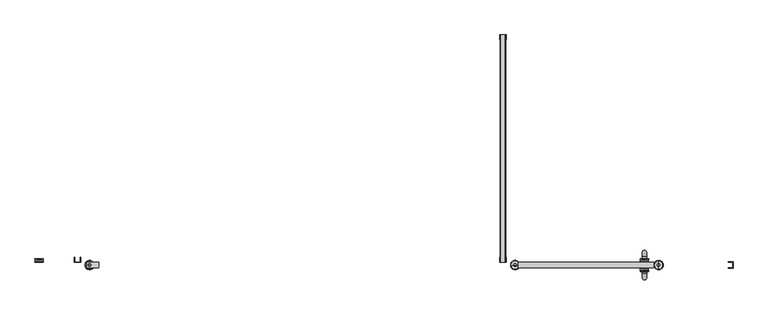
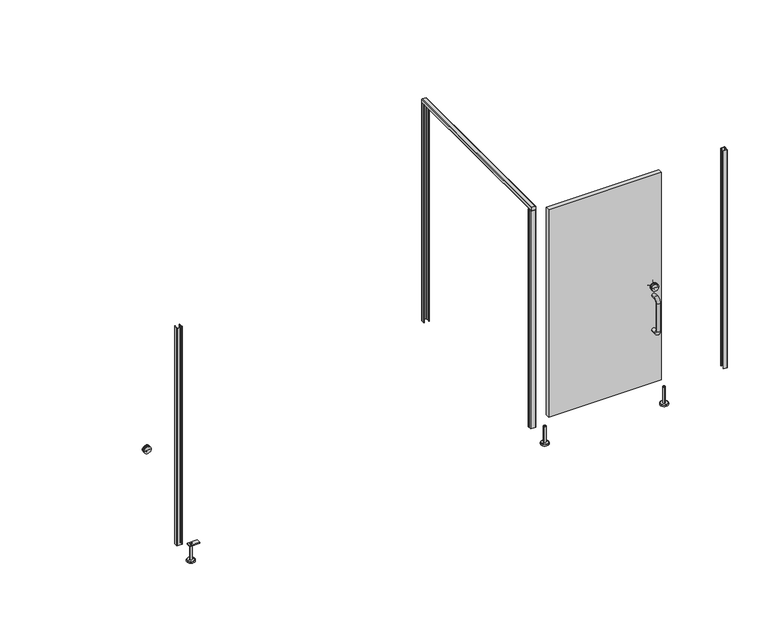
"""IFC4 building model written with IfcOpenShell, lengths in millimetres: proxy geometry, Partition_EuroStyle-Bradley_Corp-ADA-4StandardStall-NEP-LOFT : Partition_EuroStyle-Bradley_Corp-ADA-4StandardStall-NEP-LOFT."""

from ifc_helpers import new_model, si_unit, point, frame, frame_2d, origin, place, context, project, spatial, polyline, circle_curve, ellipse_curve, trimmed, segment, composite_curve, outline, extrude, source, transform, mapped, element, save
from ifc_brep_helpers import plane_surface, cylinder_surface, revolved_surface, advanced_brep


def specialty_equipment_23c630fa(model_context):
    return source(origin(), model_context, "Body", "SolidModel", [
        extrude(outline(composite_curve([segment(polyline([(2032.9666591, 3638.6203701), (2005.7492965, 3639.0741806)]), True, "CONTINUOUS"), segment(trimmed(circle_curve(frame_2d((2005.762, 3639.8360747)), 0.762), [point((2005.7492965, 3639.0741806))], [point((2005.0, 3639.8360747))], False, "CARTESIAN"), True, "CONTINUOUS"), segment(polyline([(2005.0, 3639.8360747), (2005.0, 3673.3733505)]), True, "CONTINUOUS"), segment(trimmed(circle_curve(frame_2d((2005.79375, 3673.3733505)), 0.79375), [point((2005.0, 3673.3733505))], [point((2005.7805172, 3674.1669902))], False, "CARTESIAN"), True, "CONTINUOUS"), segment(polyline([(2005.7805172, 3674.1669902), (2032.9666591, 3674.6202802)]), True, "CONTINUOUS"), segment(trimmed(circle_curve(frame_2d((2033.0000015, 3672.6205597)), 1.9999985), [point((2032.9666591, 3674.6202802))], [point((2035.0, 3672.6205597))], False, "CARTESIAN"), True, "CONTINUOUS"), segment(polyline([(2035.0, 3672.6205597), (2035.0, 3640.6200907)]), True, "CONTINUOUS"), segment(trimmed(circle_curve(frame_2d((2033.0000015, 3640.6200907)), 1.9999985), [point((2035.0, 3640.6200907))], [point((2032.9666591, 3638.6203701))], False, "CARTESIAN"), True, "CONTINUOUS")], self_intersect=False)), frame((0.0, -1524.0, 0.0), z_axis=(0.0, 1.0, 0.0), x_axis=(0.0, 0.0, 1.0)), (0.0, 0.0, 1.0), 1524.0),
        advanced_brep(
        [(3729.1184942, -1541.9996549, 150.0000008), (3747.1184936, -1541.9996549, 150.0000008), (3747.1184936, -1541.9996549, 12.0000001), (3729.1184942, -1541.9996549, 12.0000001), (3738.1184939, -1541.9996549, 150.0000008), (3707.1184949, -1541.9996549, 0.0), (3769.1184928, -1541.9996549, 0.0), (3738.1184939, -1541.9996549, 0.0), (3707.1184949, -1541.9996549, 10.0000001), (3769.1184928, -1541.9996549, 10.0000001), (3709.1209068, -1541.9996549, 12.0000001), (3767.1160809, -1541.9996549, 12.0000001)],
        [
            (0, 1, circle_curve(frame((3738.1184939, -1541.9996549, 150.0000008), z_axis=(0.0, 0.0, -1.0), x_axis=(1.0, 0.0, 0.0)), 8.9999997)),
            (1, 2),
            (2, 3, circle_curve(frame((3738.1184939, -1541.9996549, 12.0000001), z_axis=(0.0, 0.0, 1.0), x_axis=(1.0, 0.0, 0.0)), 8.9999997)),
            (3, 0),
            (1, 0, circle_curve(frame((3738.1184939, -1541.9996549, 150.0000008), z_axis=(0.0, 0.0, -1.0), x_axis=(1.0, 0.0, 0.0)), 8.9999997)),
            (3, 2, circle_curve(frame((3738.1184939, -1541.9996549, 12.0000001), z_axis=(0.0, 0.0, 1.0), x_axis=(1.0, 0.0, 0.0)), 8.9999997)),
            (4, 1),
            (0, 4),
            (5, 6, circle_curve(frame((3738.1184939, -1541.9996549, 0.0), z_axis=(0.0, 0.0, -1.0), x_axis=(1.0, 0.0, 0.0)), 30.9999989)),
            (6, 7),
            (7, 5),
            (6, 5, circle_curve(frame((3738.1184939, -1541.9996549, 0.0), z_axis=(0.0, 0.0, -1.0), x_axis=(1.0, 0.0, 0.0)), 30.9999989)),
            (8, 9, circle_curve(frame((3738.1184939, -1541.9996549, 10.0000001), z_axis=(0.0, 0.0, -1.0), x_axis=(1.0, 0.0, 0.0)), 30.9999989)),
            (9, 6),
            (5, 8),
            (9, 8, circle_curve(frame((3738.1184939, -1541.9996549, 10.0000001), z_axis=(0.0, 0.0, -1.0), x_axis=(1.0, 0.0, 0.0)), 30.9999989)),
            (10, 11, circle_curve(frame((3738.1184939, -1541.9996549, 12.0000001), z_axis=(0.0, 0.0, -1.0), x_axis=(1.0, 0.0, 0.0)), 28.997587)),
            (11, 9),
            (8, 10),
            (11, 10, circle_curve(frame((3738.1184939, -1541.9996549, 12.0000001), z_axis=(0.0, 0.0, -1.0), x_axis=(1.0, 0.0, 0.0)), 28.997587)),
            (2, 11),
            (10, 3),
        ],
        [
            cylinder_surface(frame((3738.1184939, -1541.9996549, 0.0), z_axis=(0.0, 0.0, 1.0), x_axis=(1.0, 0.0, 0.0)), 8.9999997),
            plane_surface(frame((3738.1184939, -1541.9996549, 150.0000008), z_axis=(0.0, 0.0, 1.0), x_axis=(1.0, 0.0, 0.0))),
            plane_surface(frame((3738.1184939, -1541.9996549, 0.0), z_axis=(0.0, 0.0, -1.0), x_axis=(1.0, 0.0, 0.0))),
            cylinder_surface(frame((3738.1184939, -1541.9996549, 0.0), z_axis=(0.0, 0.0, 1.0), x_axis=(1.0, 0.0, 0.0)), 30.9999989),
            revolved_surface(polyline([(3769.1184928, -1541.9996549, 10.0000001), (3767.1160809, -1541.9996549, 12.0000001)]), (3738.1184939, -1541.9996549, 0.0), (0.0, 0.0, 1.0)),
            plane_surface(frame((3738.1184939, -1541.9996549, 12.0000001), z_axis=(0.0, 0.0, 1.0), x_axis=(1.0, 0.0, 0.0))),
        ],
        [
            (0, [[1, 2, 3, 4]]),
            (0, [[5, -4, 6, -2]]),
            (1, [[7, -1, 8]]),
            (1, [[-8, -5, -7]]),
            (2, [[9, 10, 11]]),
            (2, [[12, -11, -10]]),
            (3, [[13, 14, -9, 15]]),
            (3, [[16, -15, -12, -14]]),
            (4, [[17, 18, -13, 19]]),
            (4, [[20, -19, -16, -18]]),
            (5, [[-3, 21, -17, 22]]),
            (5, [[-6, -22, -20, -21]]),
        ],
    ),
        advanced_brep(
        [(4589.2203251, -1524.0, 975.0), (4619.2203251, -1524.0, 975.0), (4589.2203251, -1524.0, 679.0), (4619.2203251, -1524.0, 679.0), (4619.2203251, -1488.0, 975.0), (4589.2203251, -1488.0, 975.0), (4619.2203251, -1458.0, 945.0), (4619.2203251, -1458.0, 709.0), (4589.2203251, -1458.0, 709.0), (4589.2203251, -1458.0, 945.0), (4619.2203251, -1488.0, 679.0), (4589.2203251, -1488.0, 679.0)],
        [
            (0, 1, circle_curve(frame((4604.2203251, -1524.0, 975.0), z_axis=(0.0, -1.0, 0.0), x_axis=(1.0, 0.0, 0.0)), 15.0)),
            (1, 0, circle_curve(frame((4604.2203251, -1524.0, 975.0), z_axis=(0.0, -1.0, 0.0), x_axis=(1.0, 0.0, 0.0)), 15.0)),
            (2, 3, circle_curve(frame((4604.2203251, -1524.0, 679.0), z_axis=(0.0, -1.0, 0.0), x_axis=(1.0, 0.0, 0.0)), 15.0)),
            (3, 2, circle_curve(frame((4604.2203251, -1524.0, 679.0), z_axis=(0.0, -1.0, 0.0), x_axis=(1.0, 0.0, 0.0)), 15.0)),
            (1, 4),
            (4, 5, circle_curve(frame((4604.2203251, -1488.0, 975.0), z_axis=(0.0, -1.0, 0.0), x_axis=(1.0, 0.0, 0.0)), 15.0)),
            (5, 0),
            (5, 4, circle_curve(frame((4604.2203251, -1488.0, 975.0), z_axis=(0.0, -1.0, 0.0), x_axis=(1.0, 0.0, 0.0)), 15.0)),
            (6, 7),
            (7, 8, circle_curve(frame((4604.2203251, -1458.0, 709.0), z_axis=(0.0, 0.0, 1.0), x_axis=(1.0, 0.0, 0.0)), 15.0)),
            (8, 9),
            (9, 6, circle_curve(frame((4604.2203251, -1458.0, 945.0), z_axis=(0.0, 0.0, -1.0), x_axis=(1.0, 0.0, 0.0)), 15.0)),
            (8, 7, circle_curve(frame((4604.2203251, -1458.0, 709.0), z_axis=(0.0, 0.0, 1.0), x_axis=(1.0, 0.0, 0.0)), 15.0)),
            (6, 9, circle_curve(frame((4604.2203251, -1458.0, 945.0), z_axis=(0.0, 0.0, -1.0), x_axis=(1.0, 0.0, 0.0)), 15.0)),
            (10, 3),
            (2, 11),
            (11, 10, circle_curve(frame((4604.2203251, -1488.0, 679.0), z_axis=(0.0, -1.0, 0.0), x_axis=(1.0, 0.0, 0.0)), 15.0)),
            (10, 11, circle_curve(frame((4604.2203251, -1488.0, 679.0), z_axis=(0.0, -1.0, 0.0), x_axis=(1.0, 0.0, 0.0)), 15.0)),
            (9, 5, circle_curve(frame((4589.2203251, -1488.0, 945.0), z_axis=(1.0, 0.0, 0.0), x_axis=(0.0, 0.0, 1.0)), 30.0)),
            (4, 6, circle_curve(frame((4619.2203251, -1488.0, 945.0), z_axis=(-1.0, 0.0, 0.0), x_axis=(0.0, 0.0, 1.0)), 30.0)),
            (11, 8, circle_curve(frame((4589.2203251, -1488.0, 709.0), z_axis=(1.0, 0.0, 0.0), x_axis=(0.0, 1.0, 0.0)), 30.0)),
            (7, 10, circle_curve(frame((4619.2203251, -1488.0, 709.0), z_axis=(-1.0, 0.0, 0.0), x_axis=(0.0, 1.0, 0.0)), 30.0)),
        ],
        [
            plane_surface(frame((4604.2203251, -1524.0, 975.0), z_axis=(0.0, -1.0, 0.0), x_axis=(1.0, 0.0, 0.0))),
            plane_surface(frame((4604.2203251, -1524.0, 679.0), z_axis=(0.0, -1.0, 0.0), x_axis=(1.0, 0.0, 0.0))),
            cylinder_surface(frame((4604.2203251, -1524.0, 975.0), z_axis=(0.0, -1.0, 0.0), x_axis=(1.0, 0.0, 0.0)), 15.0),
            cylinder_surface(frame((4604.2203251, -1458.0, 945.0), z_axis=(0.0, 0.0, 1.0), x_axis=(1.0, 0.0, 0.0)), 15.0),
            cylinder_surface(frame((4604.2203251, -1488.0, 679.0), z_axis=(0.0, 1.0, 0.0), x_axis=(1.0, 0.0, 0.0)), 15.0),
            revolved_surface(trimmed(ellipse_curve(frame((4604.2203251, -1488.0, 975.0), z_axis=(0.0, 1.0, 0.0), x_axis=(1.0, 0.0, 0.0)), 15.0, 15.0), [point((4589.2203251, -1488.0, 975.0))], [point((4619.2203251, -1488.0, 975.0))], True, "CARTESIAN"), (4604.2203251, -1488.0, 945.0), (1.0, 0.0, 0.0)),
            revolved_surface(trimmed(ellipse_curve(frame((4604.2203251, -1488.0, 975.0), z_axis=(0.0, 1.0, 0.0), x_axis=(1.0, 0.0, 0.0)), 15.0, 15.0), [point((4619.2203251, -1488.0, 975.0))], [point((4589.2203251, -1488.0, 975.0))], True, "CARTESIAN"), (4604.2203251, -1488.0, 945.0), (1.0, 0.0, 0.0)),
            revolved_surface(trimmed(ellipse_curve(frame((4604.2203251, -1458.0, 709.0), z_axis=(0.0, 0.0, -1.0), x_axis=(1.0, 0.0, 0.0)), 15.0, 15.0), [point((4589.2203251, -1458.0, 709.0))], [point((4619.2203251, -1458.0, 709.0))], True, "CARTESIAN"), (4604.2203251, -1488.0, 709.0), (1.0, 0.0, 0.0)),
            revolved_surface(trimmed(ellipse_curve(frame((4604.2203251, -1458.0, 709.0), z_axis=(0.0, 0.0, -1.0), x_axis=(1.0, 0.0, 0.0)), 15.0, 15.0), [point((4619.2203251, -1458.0, 709.0))], [point((4589.2203251, -1458.0, 709.0))], True, "CARTESIAN"), (4604.2203251, -1488.0, 709.0), (1.0, 0.0, 0.0)),
        ],
        [
            (0, [[1, 2]]),
            (1, [[3, 4]]),
            (2, [[5, 6, 7, -2]]),
            (2, [[-7, 8, -5, -1]]),
            (3, [[9, 10, 11, 12]]),
            (3, [[-11, 13, -9, 14]]),
            (4, [[15, -3, 16, 17]]),
            (4, [[-16, -4, -15, 18]]),
            (5, [[-12, 19, -6, 20]]),
            (6, [[-14, -20, -8, -19]]),
            (7, [[-17, 21, -10, 22]]),
            (8, [[-18, -22, -13, -21]]),
        ],
    ),
        advanced_brep(
        [(4589.2203251, -1560.0203251, 975.0), (4619.2203251, -1560.0203251, 975.0), (4589.2203251, -1560.0203251, 679.0), (4619.2203251, -1560.0203251, 679.0), (4589.2203251, -1596.0203251, 975.0), (4619.2203251, -1596.0203251, 975.0), (4619.2203251, -1626.0203251, 945.0), (4589.2203251, -1626.0203251, 945.0), (4589.2203251, -1626.0203251, 709.0), (4619.2203251, -1626.0203251, 709.0), (4619.2203251, -1596.0203251, 679.0), (4589.2203251, -1596.0203251, 679.0)],
        [
            (0, 1, circle_curve(frame((4604.2203251, -1560.0203251, 975.0), z_axis=(0.0, 1.0, 0.0), x_axis=(1.0, 0.0, 0.0)), 15.0)),
            (1, 0, circle_curve(frame((4604.2203251, -1560.0203251, 975.0), z_axis=(0.0, 1.0, 0.0), x_axis=(1.0, 0.0, 0.0)), 15.0)),
            (2, 3, circle_curve(frame((4604.2203251, -1560.0203251, 679.0), z_axis=(0.0, 1.0, 0.0), x_axis=(1.0, 0.0, 0.0)), 15.0)),
            (3, 2, circle_curve(frame((4604.2203251, -1560.0203251, 679.0), z_axis=(0.0, 1.0, 0.0), x_axis=(1.0, 0.0, 0.0)), 15.0)),
            (0, 4),
            (4, 5, circle_curve(frame((4604.2203251, -1596.0203251, 975.0), z_axis=(0.0, 1.0, 0.0), x_axis=(1.0, 0.0, 0.0)), 15.0)),
            (5, 1),
            (5, 4, circle_curve(frame((4604.2203251, -1596.0203251, 975.0), z_axis=(0.0, 1.0, 0.0), x_axis=(1.0, 0.0, 0.0)), 15.0)),
            (6, 7, circle_curve(frame((4604.2203251, -1626.0203251, 945.0), z_axis=(0.0, 0.0, -1.0), x_axis=(1.0, 0.0, 0.0)), 15.0)),
            (7, 8),
            (8, 9, circle_curve(frame((4604.2203251, -1626.0203251, 709.0), z_axis=(0.0, 0.0, 1.0), x_axis=(1.0, 0.0, 0.0)), 15.0)),
            (9, 6),
            (7, 6, circle_curve(frame((4604.2203251, -1626.0203251, 945.0), z_axis=(0.0, 0.0, -1.0), x_axis=(1.0, 0.0, 0.0)), 15.0)),
            (9, 8, circle_curve(frame((4604.2203251, -1626.0203251, 709.0), z_axis=(0.0, 0.0, 1.0), x_axis=(1.0, 0.0, 0.0)), 15.0)),
            (10, 11, circle_curve(frame((4604.2203251, -1596.0203251, 679.0), z_axis=(0.0, 1.0, 0.0), x_axis=(1.0, 0.0, 0.0)), 15.0)),
            (11, 2),
            (3, 10),
            (11, 10, circle_curve(frame((4604.2203251, -1596.0203251, 679.0), z_axis=(0.0, 1.0, 0.0), x_axis=(1.0, 0.0, 0.0)), 15.0)),
            (6, 5, circle_curve(frame((4619.2203251, -1596.0203251, 945.0), z_axis=(-1.0, 0.0, 0.0), x_axis=(0.0, 0.0, 1.0)), 30.0)),
            (4, 7, circle_curve(frame((4589.2203251, -1596.0203251, 945.0), z_axis=(1.0, 0.0, 0.0), x_axis=(0.0, 0.0, 1.0)), 30.0)),
            (10, 9, circle_curve(frame((4619.2203251, -1596.0203251, 709.0), z_axis=(-1.0, 0.0, 0.0), x_axis=(0.0, -1.0, 0.0)), 30.0)),
            (8, 11, circle_curve(frame((4589.2203251, -1596.0203251, 709.0), z_axis=(1.0, 0.0, 0.0), x_axis=(0.0, -1.0, 0.0)), 30.0)),
        ],
        [
            plane_surface(frame((4604.2203251, -1560.0203251, 975.0), z_axis=(0.0, 1.0, 0.0), x_axis=(1.0, 0.0, 0.0))),
            plane_surface(frame((4604.2203251, -1560.0203251, 679.0), z_axis=(0.0, 1.0, 0.0), x_axis=(1.0, 0.0, 0.0))),
            cylinder_surface(frame((4604.2203251, -1560.0203251, 975.0), z_axis=(0.0, 1.0, 0.0), x_axis=(1.0, 0.0, 0.0)), 15.0),
            cylinder_surface(frame((4604.2203251, -1626.0203251, 945.0), z_axis=(0.0, 0.0, 1.0), x_axis=(1.0, 0.0, 0.0)), 15.0),
            cylinder_surface(frame((4604.2203251, -1596.0203251, 679.0), z_axis=(0.0, -1.0, 0.0), x_axis=(1.0, 0.0, 0.0)), 15.0),
            revolved_surface(trimmed(ellipse_curve(frame((4604.2203251, -1596.0203251, 975.0), z_axis=(0.0, 1.0, 0.0), x_axis=(1.0, 0.0, 0.0)), 15.0, 15.0), [point((4589.2203251, -1596.0203251, 975.0))], [point((4619.2203251, -1596.0203251, 975.0))], True, "CARTESIAN"), (4604.2203251, -1596.0203251, 945.0), (1.0, 0.0, 0.0)),
            revolved_surface(trimmed(ellipse_curve(frame((4604.2203251, -1596.0203251, 975.0), z_axis=(0.0, 1.0, 0.0), x_axis=(1.0, 0.0, 0.0)), 15.0, 15.0), [point((4619.2203251, -1596.0203251, 975.0))], [point((4589.2203251, -1596.0203251, 975.0))], True, "CARTESIAN"), (4604.2203251, -1596.0203251, 945.0), (1.0, 0.0, 0.0)),
            revolved_surface(trimmed(ellipse_curve(frame((4604.2203251, -1626.0203251, 709.0), z_axis=(0.0, 0.0, 1.0), x_axis=(1.0, 0.0, 0.0)), 15.0, 15.0), [point((4589.2203251, -1626.0203251, 709.0))], [point((4619.2203251, -1626.0203251, 709.0))], True, "CARTESIAN"), (4604.2203251, -1596.0203251, 709.0), (1.0, 0.0, 0.0)),
            revolved_surface(trimmed(ellipse_curve(frame((4604.2203251, -1626.0203251, 709.0), z_axis=(0.0, 0.0, 1.0), x_axis=(1.0, 0.0, 0.0)), 15.0, 15.0), [point((4619.2203251, -1626.0203251, 709.0))], [point((4589.2203251, -1626.0203251, 709.0))], True, "CARTESIAN"), (4604.2203251, -1596.0203251, 709.0), (1.0, 0.0, 0.0)),
        ],
        [
            (0, [[1, 2]]),
            (1, [[3, 4]]),
            (2, [[-1, 5, 6, 7]]),
            (2, [[-2, -7, 8, -5]]),
            (3, [[9, 10, 11, 12]]),
            (3, [[13, -12, 14, -10]]),
            (4, [[15, 16, -4, 17]]),
            (4, [[18, -17, -3, -16]]),
            (5, [[19, -6, 20, -9]]),
            (6, [[-20, -8, -19, -13]]),
            (7, [[21, -11, 22, -15]]),
            (8, [[-22, -14, -21, -18]]),
        ],
    ),
        advanced_brep(
        [(4575.6453251, -1524.0203251, 1050.0), (4632.7953251, -1524.0203251, 1050.0), (4604.2203251, -1524.0203251, 1050.0), (4575.6453251, -1519.2578251, 1050.0), (4632.7953251, -1519.2578251, 1050.0), (4575.6453251, -1500.2078251, 1050.0), (4632.7953251, -1500.2078251, 1050.0), (4632.7953251, -1504.9703251, 1050.0), (4575.6453251, -1504.9703251, 1050.0), (4631.2078251, -1506.5578251, 1050.0), (4577.2328251, -1506.5578251, 1050.0), (4631.2078251, -1517.6703251, 1050.0), (4577.2328251, -1517.6703251, 1050.0), (4604.2203251, -1498.6203251, 1050.0)],
        [
            (0, 1, circle_curve(frame((4604.2203251, -1524.0203251, 1050.0), z_axis=(0.0, -1.0, 0.0), x_axis=(1.0, 0.0, 0.0)), 28.575)),
            (1, 2),
            (2, 0),
            (1, 0, circle_curve(frame((4604.2203251, -1524.0203251, 1050.0), z_axis=(0.0, -1.0, 0.0), x_axis=(1.0, 0.0, 0.0)), 28.575)),
            (3, 4, circle_curve(frame((4604.2203251, -1519.2578251, 1050.0), z_axis=(0.0, -1.0, 0.0), x_axis=(1.0, 0.0, 0.0)), 28.575)),
            (4, 1),
            (0, 3),
            (4, 3, circle_curve(frame((4604.2203251, -1519.2578251, 1050.0), z_axis=(0.0, -1.0, 0.0), x_axis=(1.0, 0.0, 0.0)), 28.575)),
            (5, 6, circle_curve(frame((4604.2203251, -1500.2078251, 1050.0), z_axis=(0.0, -1.0, 0.0), x_axis=(1.0, 0.0, 0.0)), 28.575)),
            (6, 7),
            (7, 8, circle_curve(frame((4604.2203251, -1504.9703251, 1050.0), z_axis=(0.0, 1.0, 0.0), x_axis=(1.0, 0.0, 0.0)), 28.575)),
            (8, 5),
            (6, 5, circle_curve(frame((4604.2203251, -1500.2078251, 1050.0), z_axis=(0.0, -1.0, 0.0), x_axis=(1.0, 0.0, 0.0)), 28.575)),
            (8, 7, circle_curve(frame((4604.2203251, -1504.9703251, 1050.0), z_axis=(0.0, 1.0, 0.0), x_axis=(1.0, 0.0, 0.0)), 28.575)),
            (7, 9, circle_curve(frame((4632.7953251, -1506.5578251, 1050.0), z_axis=(0.0, 0.0, 1.0), x_axis=(1.0, 0.0, 0.0)), 1.5875)),
            (9, 10, circle_curve(frame((4604.2203251, -1506.5578251, 1050.0), z_axis=(0.0, 1.0, 0.0), x_axis=(1.0, 0.0, 0.0)), 26.9875)),
            (10, 8, circle_curve(frame((4575.6453251, -1506.5578251, 1050.0), z_axis=(0.0, 0.0, 1.0), x_axis=(-1.0, 0.0, 0.0)), 1.5875)),
            (10, 9, circle_curve(frame((4604.2203251, -1506.5578251, 1050.0), z_axis=(0.0, 1.0, 0.0), x_axis=(1.0, 0.0, 0.0)), 26.9875)),
            (9, 11),
            (11, 12, circle_curve(frame((4604.2203251, -1517.6703251, 1050.0), z_axis=(0.0, 1.0, 0.0), x_axis=(1.0, 0.0, 0.0)), 26.9875)),
            (12, 10),
            (12, 11, circle_curve(frame((4604.2203251, -1517.6703251, 1050.0), z_axis=(0.0, 1.0, 0.0), x_axis=(1.0, 0.0, 0.0)), 26.9875)),
            (11, 4, circle_curve(frame((4632.7953251, -1517.6703251, 1050.0), z_axis=(0.0, 0.0, 1.0), x_axis=(1.0, 0.0, 0.0)), 1.5875)),
            (3, 12, circle_curve(frame((4575.6453251, -1517.6703251, 1050.0), z_axis=(0.0, 0.0, 1.0), x_axis=(-1.0, 0.0, 0.0)), 1.5875)),
            (13, 6, circle_curve(frame((4607.9144485, -1690.0948544, 1050.0), z_axis=(0.0, 0.0, -1.0), x_axis=(1.0, 0.0, 0.0)), 191.5101613)),
            (5, 13, circle_curve(frame((4600.5262018, -1690.0948544, 1050.0), z_axis=(0.0, 0.0, -1.0), x_axis=(-1.0, 0.0, 0.0)), 191.5101613)),
        ],
        [
            plane_surface(frame((4604.2203251, -1524.0203251, 1050.0), z_axis=(0.0, -1.0, 0.0), x_axis=(1.0, 0.0, 0.0))),
            cylinder_surface(frame((4604.2203251, -1524.0203251, 1050.0), z_axis=(0.0, 1.0, 0.0), x_axis=(1.0, 0.0, 0.0)), 28.575),
            revolved_surface(trimmed(ellipse_curve(frame((4632.7953251, -1506.5578251, 1050.0), z_axis=(0.0, 0.0, -1.0), x_axis=(1.0, 0.0, 0.0)), 1.5875, 1.5875), [point((4631.2078251, -1506.5578251, 1050.0))], [point((4632.7953251, -1504.9703251, 1050.0))], True, "CARTESIAN"), (4604.2203251, -1524.0203251, 1050.0), (0.0, 1.0, 0.0)),
            cylinder_surface(frame((4604.2203251, -1524.0203251, 1050.0), z_axis=(0.0, 1.0, 0.0), x_axis=(1.0, 0.0, 0.0)), 26.9875),
            revolved_surface(trimmed(ellipse_curve(frame((4632.7953251, -1517.6703251, 1050.0), z_axis=(0.0, 0.0, -1.0), x_axis=(1.0, 0.0, 0.0)), 1.5875, 1.5875), [point((4632.7953251, -1519.2578251, 1050.0))], [point((4631.2078251, -1517.6703251, 1050.0))], True, "CARTESIAN"), (4604.2203251, -1524.0203251, 1050.0), (0.0, 1.0, 0.0)),
            revolved_surface(trimmed(ellipse_curve(frame((4607.9144485, -1690.0948544, 1050.0), z_axis=(0.0, 0.0, 1.0), x_axis=(1.0, 0.0, 0.0)), 191.5101613, 191.5101613), [point((4632.7953251, -1500.2078251, 1050.0))], [point((4604.2203251, -1498.6203251, 1050.0))], True, "CARTESIAN"), (4604.2203251, -1524.0203251, 1050.0), (0.0, 1.0, 0.0)),
        ],
        [
            (0, [[1, 2, 3]]),
            (0, [[4, -3, -2]]),
            (1, [[5, 6, -1, 7]]),
            (1, [[8, -7, -4, -6]]),
            (1, [[9, 10, 11, 12]]),
            (1, [[13, -12, 14, -10]]),
            (2, [[-11, 15, 16, 17]]),
            (2, [[-14, -17, 18, -15]]),
            (3, [[-16, 19, 20, 21]]),
            (3, [[-18, -21, 22, -19]]),
            (4, [[-20, 23, -5, 24]]),
            (4, [[-22, -24, -8, -23]]),
            (5, [[25, -9, 26]]),
            (5, [[-26, -13, -25]]),
        ],
    ),
        advanced_brep(
        [(4604.2203251, -1560.0203251, 1050.0), (4632.7953251, -1560.0203251, 1050.0), (4575.6453251, -1560.0203251, 1050.0), (4632.7953251, -1564.7828251, 1050.0), (4575.6453251, -1564.7828251, 1050.0), (4575.6453251, -1579.0703251, 1050.0), (4632.7953251, -1579.0703251, 1050.0), (4632.7953251, -1583.8328251, 1050.0), (4575.6453251, -1583.8328251, 1050.0), (4577.2328251, -1577.4828251, 1050.0), (4631.2078251, -1577.4828251, 1050.0), (4577.2328251, -1566.3703251, 1050.0), (4631.2078251, -1566.3703251, 1050.0), (4604.2203251, -1585.4203251, 1050.0)],
        [
            (0, 1),
            (1, 2, circle_curve(frame((4604.2203251, -1560.0203251, 1050.0), z_axis=(0.0, 1.0, 0.0), x_axis=(1.0, 0.0, 0.0)), 28.575)),
            (2, 0),
            (2, 1, circle_curve(frame((4604.2203251, -1560.0203251, 1050.0), z_axis=(0.0, 1.0, 0.0), x_axis=(1.0, 0.0, 0.0)), 28.575)),
            (1, 3),
            (3, 4, circle_curve(frame((4604.2203251, -1564.7828251, 1050.0), z_axis=(0.0, 1.0, 0.0), x_axis=(1.0, 0.0, 0.0)), 28.575)),
            (4, 2),
            (4, 3, circle_curve(frame((4604.2203251, -1564.7828251, 1050.0), z_axis=(0.0, 1.0, 0.0), x_axis=(1.0, 0.0, 0.0)), 28.575)),
            (5, 6, circle_curve(frame((4604.2203251, -1579.0703251, 1050.0), z_axis=(0.0, -1.0, 0.0), x_axis=(1.0, 0.0, 0.0)), 28.575)),
            (6, 7),
            (7, 8, circle_curve(frame((4604.2203251, -1583.8328251, 1050.0), z_axis=(0.0, 1.0, 0.0), x_axis=(1.0, 0.0, 0.0)), 28.575)),
            (8, 5),
            (6, 5, circle_curve(frame((4604.2203251, -1579.0703251, 1050.0), z_axis=(0.0, -1.0, 0.0), x_axis=(1.0, 0.0, 0.0)), 28.575)),
            (8, 7, circle_curve(frame((4604.2203251, -1583.8328251, 1050.0), z_axis=(0.0, 1.0, 0.0), x_axis=(1.0, 0.0, 0.0)), 28.575)),
            (9, 10, circle_curve(frame((4604.2203251, -1577.4828251, 1050.0), z_axis=(0.0, -1.0, 0.0), x_axis=(1.0, 0.0, 0.0)), 26.9875)),
            (10, 6, circle_curve(frame((4632.7953251, -1577.4828251, 1050.0), z_axis=(0.0, 0.0, 1.0), x_axis=(1.0, 0.0, 0.0)), 1.5875)),
            (5, 9, circle_curve(frame((4575.6453251, -1577.4828251, 1050.0), z_axis=(0.0, 0.0, 1.0), x_axis=(-1.0, 0.0, 0.0)), 1.5875)),
            (10, 9, circle_curve(frame((4604.2203251, -1577.4828251, 1050.0), z_axis=(0.0, -1.0, 0.0), x_axis=(1.0, 0.0, 0.0)), 26.9875)),
            (11, 12, circle_curve(frame((4604.2203251, -1566.3703251, 1050.0), z_axis=(0.0, -1.0, 0.0), x_axis=(1.0, 0.0, 0.0)), 26.9875)),
            (12, 10),
            (9, 11),
            (12, 11, circle_curve(frame((4604.2203251, -1566.3703251, 1050.0), z_axis=(0.0, -1.0, 0.0), x_axis=(1.0, 0.0, 0.0)), 26.9875)),
            (3, 12, circle_curve(frame((4632.7953251, -1566.3703251, 1050.0), z_axis=(0.0, 0.0, 1.0), x_axis=(1.0, 0.0, 0.0)), 1.5875)),
            (11, 4, circle_curve(frame((4575.6453251, -1566.3703251, 1050.0), z_axis=(0.0, 0.0, 1.0), x_axis=(-1.0, 0.0, 0.0)), 1.5875)),
            (7, 13, circle_curve(frame((4607.9144485, -1393.9457959, 1050.0), z_axis=(0.0, 0.0, -1.0), x_axis=(1.0, 0.0, 0.0)), 191.5101613)),
            (13, 8, circle_curve(frame((4600.5262018, -1393.9457959, 1050.0), z_axis=(0.0, 0.0, -1.0), x_axis=(-1.0, 0.0, 0.0)), 191.5101613)),
        ],
        [
            plane_surface(frame((4604.2203251, -1560.0203251, 1050.0), z_axis=(0.0, 1.0, 0.0), x_axis=(1.0, 0.0, 0.0))),
            cylinder_surface(frame((4604.2203251, -1560.0203251, 1050.0), z_axis=(0.0, 1.0, 0.0), x_axis=(1.0, 0.0, 0.0)), 28.575),
            revolved_surface(trimmed(ellipse_curve(frame((4632.7953251, -1577.4828251, 1050.0), z_axis=(0.0, 0.0, -1.0), x_axis=(1.0, 0.0, 0.0)), 1.5875, 1.5875), [point((4632.7953251, -1579.0703251, 1050.0))], [point((4631.2078251, -1577.4828251, 1050.0))], True, "CARTESIAN"), (4604.2203251, -1560.0203251, 1050.0), (0.0, 1.0, 0.0)),
            cylinder_surface(frame((4604.2203251, -1560.0203251, 1050.0), z_axis=(0.0, 1.0, 0.0), x_axis=(1.0, 0.0, 0.0)), 26.9875),
            revolved_surface(trimmed(ellipse_curve(frame((4632.7953251, -1566.3703251, 1050.0), z_axis=(0.0, 0.0, -1.0), x_axis=(1.0, 0.0, 0.0)), 1.5875, 1.5875), [point((4631.2078251, -1566.3703251, 1050.0))], [point((4632.7953251, -1564.7828251, 1050.0))], True, "CARTESIAN"), (4604.2203251, -1560.0203251, 1050.0), (0.0, 1.0, 0.0)),
            revolved_surface(trimmed(ellipse_curve(frame((4607.9144485, -1393.9457959, 1050.0), z_axis=(0.0, 0.0, 1.0), x_axis=(1.0, 0.0, 0.0)), 191.5101613, 191.5101613), [point((4604.2203251, -1585.4203251, 1050.0))], [point((4632.7953251, -1583.8328251, 1050.0))], True, "CARTESIAN"), (4604.2203251, -1560.0203251, 1050.0), (0.0, 1.0, 0.0)),
        ],
        [
            (0, [[1, 2, 3]]),
            (0, [[-3, 4, -1]]),
            (1, [[-2, 5, 6, 7]]),
            (1, [[-4, -7, 8, -5]]),
            (1, [[9, 10, 11, 12]]),
            (1, [[13, -12, 14, -10]]),
            (2, [[15, 16, -9, 17]]),
            (2, [[18, -17, -13, -16]]),
            (3, [[19, 20, -15, 21]]),
            (3, [[22, -21, -18, -20]]),
            (4, [[-6, 23, -19, 24]]),
            (4, [[-8, -24, -22, -23]]),
            (5, [[-11, 25, 26]]),
            (5, [[-14, -26, -25]]),
        ],
    ),
        extrude(outline(polyline([(3758.6170903, -1524.0), (4667.7203251, -1524.0), (4667.7203251, -1560.0203251), (3758.6170903, -1560.0203251), (3758.6170903, -1524.0)])), frame((0.0, 0.0, 228.6), z_axis=(0.0, 0.0, 1.0), x_axis=(1.0, 0.0, 0.0)), (0.0, 0.0, 1.0), 1767.4),
        advanced_brep(
        [(4699.7203251, -1532.9996552, 150.0000008), (4699.7203251, -1550.9996545, 150.0000008), (4699.7203251, -1550.9996545, 12.0000001), (4699.7203251, -1532.9996552, 12.0000001), (4699.7203251, -1541.9996549, 150.0000008), (4699.7203251, -1510.9996559, 0.0), (4699.7203251, -1572.9996538, 0.0), (4699.7203251, -1541.9996549, 0.0), (4699.7203251, -1510.9996559, 10.0000001), (4699.7203251, -1572.9996538, 10.0000001), (4699.7203251, -1513.0020678, 12.0000001), (4699.7203251, -1570.9972419, 12.0000001)],
        [
            (0, 1, circle_curve(frame((4699.7203251, -1541.9996549, 150.0000008), z_axis=(0.0, 0.0, -1.0), x_axis=(0.0, -1.0, 0.0)), 8.9999997)),
            (1, 2),
            (2, 3, circle_curve(frame((4699.7203251, -1541.9996549, 12.0000001), z_axis=(0.0, 0.0, 1.0), x_axis=(0.0, -1.0, 0.0)), 8.9999997)),
            (3, 0),
            (1, 0, circle_curve(frame((4699.7203251, -1541.9996549, 150.0000008), z_axis=(0.0, 0.0, -1.0), x_axis=(0.0, -1.0, 0.0)), 8.9999997)),
            (3, 2, circle_curve(frame((4699.7203251, -1541.9996549, 12.0000001), z_axis=(0.0, 0.0, 1.0), x_axis=(0.0, -1.0, 0.0)), 8.9999997)),
            (4, 1),
            (0, 4),
            (5, 6, circle_curve(frame((4699.7203251, -1541.9996549, 0.0), z_axis=(0.0, 0.0, -1.0), x_axis=(0.0, -1.0, 0.0)), 30.9999989)),
            (6, 7),
            (7, 5),
            (6, 5, circle_curve(frame((4699.7203251, -1541.9996549, 0.0), z_axis=(0.0, 0.0, -1.0), x_axis=(0.0, -1.0, 0.0)), 30.9999989)),
            (8, 9, circle_curve(frame((4699.7203251, -1541.9996549, 10.0000001), z_axis=(0.0, 0.0, -1.0), x_axis=(0.0, -1.0, 0.0)), 30.9999989)),
            (9, 6),
            (5, 8),
            (9, 8, circle_curve(frame((4699.7203251, -1541.9996549, 10.0000001), z_axis=(0.0, 0.0, -1.0), x_axis=(0.0, -1.0, 0.0)), 30.9999989)),
            (10, 11, circle_curve(frame((4699.7203251, -1541.9996549, 12.0000001), z_axis=(0.0, 0.0, -1.0), x_axis=(0.0, -1.0, 0.0)), 28.997587)),
            (11, 9),
            (8, 10),
            (11, 10, circle_curve(frame((4699.7203251, -1541.9996549, 12.0000001), z_axis=(0.0, 0.0, -1.0), x_axis=(0.0, -1.0, 0.0)), 28.997587)),
            (2, 11),
            (10, 3),
        ],
        [
            cylinder_surface(frame((4699.7203251, -1541.9996549, 0.0), z_axis=(0.0, 0.0, 1.0), x_axis=(0.0, -1.0, 0.0)), 8.9999997),
            plane_surface(frame((4699.7203251, -1541.9996549, 150.0000008), z_axis=(0.0, 0.0, 1.0), x_axis=(0.0, -1.0, 0.0))),
            plane_surface(frame((4699.7203251, -1541.9996549, 0.0), z_axis=(0.0, 0.0, -1.0), x_axis=(0.0, -1.0, 0.0))),
            cylinder_surface(frame((4699.7203251, -1541.9996549, 0.0), z_axis=(0.0, 0.0, 1.0), x_axis=(0.0, -1.0, 0.0)), 30.9999989),
            revolved_surface(polyline([(4699.7203251, -1572.9996538, 10.0000001), (4699.7203251, -1570.9972419, 12.0000001)]), (4699.7203251, -1541.9996549, 0.0), (0.0, 0.0, 1.0)),
            plane_surface(frame((4699.7203251, -1541.9996549, 12.0000001), z_axis=(0.0, 0.0, 1.0), x_axis=(0.0, -1.0, 0.0))),
        ],
        [
            (0, [[1, 2, 3, 4]]),
            (0, [[5, -4, 6, -2]]),
            (1, [[7, -1, 8]]),
            (1, [[-8, -5, -7]]),
            (2, [[9, 10, 11]]),
            (2, [[12, -11, -10]]),
            (3, [[13, 14, -9, 15]]),
            (3, [[16, -15, -12, -14]]),
            (4, [[17, 18, -13, 19]]),
            (4, [[20, -19, -16, -18]]),
            (5, [[-3, 21, -17, 22]]),
            (5, [[-6, -22, -20, -21]]),
        ],
    ),
        extrude(outline(composite_curve([segment(polyline([(3636.1288796, -32.5000002), (3635.6205405, -2.02918)]), True, "CONTINUOUS"), segment(trimmed(circle_curve(frame_2d((3637.6497205, -2.02918)), 2.02918), [point((3635.6205405, -2.02918))], [point((3637.6497205, 0.0))], False, "CARTESIAN"), True, "CONTINUOUS"), segment(polyline([(3637.6497205, 0.0), (3675.5909298, 0.0)]), True, "CONTINUOUS"), segment(trimmed(circle_curve(frame_2d((3675.5909298, -2.02918)), 2.02918), [point((3675.5909298, 0.0))], [point((3677.6201098, -2.02918))], False, "CARTESIAN"), True, "CONTINUOUS"), segment(polyline([(3677.6201098, -2.02918), (3677.1117707, -32.5000002), (3675.6131851, -32.5000002)]), True, "CONTINUOUS"), segment(trimmed(circle_curve(frame_2d((3675.6167525, -31.5009082)), 0.9990984), [point((3675.6131851, -32.5000002))], [point((3675.1430999, -30.6212202))], False, "CARTESIAN"), True, "CONTINUOUS"), segment(polyline([(3675.1430999, -30.6212202), (3675.2642099, -23.3575702)]), True, "CONTINUOUS"), segment(trimmed(circle_curve(frame_2d((3675.7817558, -22.5000551)), 1.0015917), [point((3675.2642099, -23.3575702))], [point((3675.2926587, -21.6260013))], False, "CARTESIAN"), True, "CONTINUOUS"), segment(polyline([(3675.2926587, -21.6260013), (3675.58671, -4.0)]), True, "CONTINUOUS"), segment(trimmed(circle_curve(frame_2d((3673.5870154, -3.9990939)), 1.9996948), [point((3675.58671, -4.0))], [point((3673.5379958, -2.0))], True, "CARTESIAN"), True, "CONTINUOUS"), segment(polyline([(3673.5379958, -2.0), (3639.6536968, -2.0)]), True, "CONTINUOUS"), segment(trimmed(circle_curve(frame_2d((3639.6536968, -4.0002204)), 2.0002204), [point((3639.6536968, -2.0))], [point((3637.6535049, -3.9895469))], True, "CARTESIAN"), True, "CONTINUOUS"), segment(polyline([(3637.6535049, -3.9895469), (3637.9475604, -21.6257602)]), True, "CONTINUOUS"), segment(trimmed(circle_curve(frame_2d((3637.4588945, -22.5000551)), 1.0015917), [point((3637.9475604, -21.6257602))], [point((3637.9764404, -23.3575702))], False, "CARTESIAN"), True, "CONTINUOUS"), segment(polyline([(3637.9764404, -23.3575702), (3638.0975504, -30.6212202)]), True, "CONTINUOUS"), segment(trimmed(circle_curve(frame_2d((3637.6238978, -31.5009082)), 0.9990984), [point((3638.0975504, -30.6212202))], [point((3637.6274652, -32.5000002))], False, "CARTESIAN"), True, "CONTINUOUS"), segment(polyline([(3637.6274652, -32.5000002), (3636.1288796, -32.5000002)]), True, "CONTINUOUS")], self_intersect=False)), frame((0.0, 0.0, 150.0), z_axis=(0.0, 0.0, 1.0), x_axis=(1.0, 0.0, 0.0)), (0.0, 0.0, 1.0), 1855.0),
        extrude(outline(composite_curve([segment(polyline([(3636.1288796, -1491.4999998), (3637.6274652, -1491.4999998)]), True, "CONTINUOUS"), segment(trimmed(circle_curve(frame_2d((3637.6238978, -1492.4990918)), 0.9990984), [point((3637.6274652, -1491.4999998))], [point((3638.0975504, -1493.3787798))], False, "CARTESIAN"), True, "CONTINUOUS"), segment(polyline([(3638.0975504, -1493.3787798), (3637.9764404, -1500.6424298)]), True, "CONTINUOUS"), segment(trimmed(circle_curve(frame_2d((3637.4588945, -1501.4999449)), 1.0015917), [point((3637.9764404, -1500.6424298))], [point((3637.9475604, -1502.3742398))], False, "CARTESIAN"), True, "CONTINUOUS"), segment(polyline([(3637.9475604, -1502.3742398), (3637.6535049, -1520.0104531)]), True, "CONTINUOUS"), segment(trimmed(circle_curve(frame_2d((3639.6536968, -1519.9997796)), 2.0002204), [point((3637.6535049, -1520.0104531))], [point((3639.6536968, -1522.0))], True, "CARTESIAN"), True, "CONTINUOUS"), segment(polyline([(3639.6536968, -1522.0), (3673.5379958, -1522.0)]), True, "CONTINUOUS"), segment(trimmed(circle_curve(frame_2d((3673.5870154, -1520.0009061)), 1.9996948), [point((3673.5379958, -1522.0))], [point((3675.58671, -1520.0))], True, "CARTESIAN"), True, "CONTINUOUS"), segment(polyline([(3675.58671, -1520.0), (3675.2926587, -1502.3739987)]), True, "CONTINUOUS"), segment(trimmed(circle_curve(frame_2d((3675.7817558, -1501.4999449)), 1.0015917), [point((3675.2926587, -1502.3739987))], [point((3675.2642099, -1500.6424298))], False, "CARTESIAN"), True, "CONTINUOUS"), segment(polyline([(3675.2642099, -1500.6424298), (3675.1430999, -1493.3787798)]), True, "CONTINUOUS"), segment(trimmed(circle_curve(frame_2d((3675.6167525, -1492.4990918)), 0.9990984), [point((3675.1430999, -1493.3787798))], [point((3675.6131851, -1491.4999998))], False, "CARTESIAN"), True, "CONTINUOUS"), segment(polyline([(3675.6131851, -1491.4999998), (3677.1117707, -1491.4999998), (3677.6201098, -1521.97082)]), True, "CONTINUOUS"), segment(trimmed(circle_curve(frame_2d((3675.5909298, -1521.97082)), 2.02918), [point((3677.6201098, -1521.97082))], [point((3675.5909298, -1524.0))], False, "CARTESIAN"), True, "CONTINUOUS"), segment(polyline([(3675.5909298, -1524.0), (3637.6497205, -1524.0)]), True, "CONTINUOUS"), segment(trimmed(circle_curve(frame_2d((3637.6497205, -1521.97082)), 2.02918), [point((3637.6497205, -1524.0))], [point((3635.6205405, -1521.97082))], False, "CARTESIAN"), True, "CONTINUOUS"), segment(polyline([(3635.6205405, -1521.97082), (3636.1288796, -1491.4999998)]), True, "CONTINUOUS")], self_intersect=False)), frame((0.0, 0.0, 150.0), z_axis=(0.0, 0.0, 1.0), x_axis=(1.0, 0.0, 0.0)), (0.0, 0.0, 1.0), 1855.0),
        extrude(outline(composite_curve([segment(polyline([(5166.1203249, -1562.4911004), (5166.1203249, -1560.9925148)]), True, "CONTINUOUS"), segment(trimmed(circle_curve(frame_2d((5167.119417, -1560.9960822)), 0.9990984), [point((5166.1203249, -1560.9925148))], [point((5167.9991049, -1560.5224296))], False, "CARTESIAN"), True, "CONTINUOUS"), segment(polyline([(5167.9991049, -1560.5224296), (5175.262755, -1560.6435396)]), True, "CONTINUOUS"), segment(trimmed(circle_curve(frame_2d((5176.1202701, -1561.1610855)), 1.0015917), [point((5175.262755, -1560.6435396))], [point((5176.994565, -1560.6724196))], False, "CARTESIAN"), True, "CONTINUOUS"), segment(polyline([(5176.994565, -1560.6724196), (5194.6307782, -1560.9664751)]), True, "CONTINUOUS"), segment(trimmed(circle_curve(frame_2d((5194.6201048, -1558.9662832)), 2.0002204), [point((5194.6307782, -1560.9664751))], [point((5196.6203252, -1558.9662832))], True, "CARTESIAN"), True, "CONTINUOUS"), segment(polyline([(5196.6203252, -1558.9662832), (5196.6203251, -1525.0819842)]), True, "CONTINUOUS"), segment(trimmed(circle_curve(frame_2d((5194.6212312, -1525.0329646)), 1.9996948), [point((5196.6203251, -1525.0819842))], [point((5194.6203251, -1523.03327))], True, "CARTESIAN"), True, "CONTINUOUS"), segment(polyline([(5194.6203251, -1523.03327), (5176.9943238, -1523.3273213)]), True, "CONTINUOUS"), segment(trimmed(circle_curve(frame_2d((5176.1202701, -1522.8382242)), 1.0015917), [point((5176.9943238, -1523.3273213))], [point((5175.262755, -1523.3557701))], False, "CARTESIAN"), True, "CONTINUOUS"), segment(polyline([(5175.262755, -1523.3557701), (5167.9991049, -1523.4768801)]), True, "CONTINUOUS"), segment(trimmed(circle_curve(frame_2d((5167.119417, -1523.0032275)), 0.9990984), [point((5167.9991049, -1523.4768801))], [point((5166.1203249, -1523.0067949))], False, "CARTESIAN"), True, "CONTINUOUS"), segment(polyline([(5166.1203249, -1523.0067949), (5166.1203249, -1521.5082093), (5196.5911451, -1520.9998702)]), True, "CONTINUOUS"), segment(trimmed(circle_curve(frame_2d((5196.5911451, -1523.0290502)), 2.02918), [point((5196.5911451, -1520.9998702))], [point((5198.6203251, -1523.0290502))], False, "CARTESIAN"), True, "CONTINUOUS"), segment(polyline([(5198.6203251, -1523.0290502), (5198.6203251, -1560.9702595)]), True, "CONTINUOUS"), segment(trimmed(circle_curve(frame_2d((5196.5911451, -1560.9702595)), 2.02918), [point((5198.6203251, -1560.9702595))], [point((5196.5911451, -1562.9994395))], False, "CARTESIAN"), True, "CONTINUOUS"), segment(polyline([(5196.5911451, -1562.9994395), (5166.1203249, -1562.4911004)]), True, "CONTINUOUS")], self_intersect=False)), frame((0.0, 0.0, 150.0), z_axis=(0.0, 0.0, 1.0), x_axis=(1.0, 0.0, 0.0)), (0.0, 0.0, 1.0), 1855.0),
        extrude(outline(composite_curve([segment(polyline([(784.918717, -1491.4999998), (786.4173026, -1491.4999998)]), True, "CONTINUOUS"), segment(trimmed(circle_curve(frame_2d((786.4137352, -1492.4990918)), 0.9990984), [point((786.4173026, -1491.4999998))], [point((786.8873879, -1493.3787798))], False, "CARTESIAN"), True, "CONTINUOUS"), segment(polyline([(786.8873879, -1493.3787798), (786.7662779, -1500.6424298)]), True, "CONTINUOUS"), segment(trimmed(circle_curve(frame_2d((786.248732, -1501.4999449)), 1.0015917), [point((786.7662779, -1500.6424298))], [point((786.7373979, -1502.3742398))], False, "CARTESIAN"), True, "CONTINUOUS"), segment(polyline([(786.7373979, -1502.3742398), (786.4433424, -1520.0104531)]), True, "CONTINUOUS"), segment(trimmed(circle_curve(frame_2d((788.4435342, -1519.9997796)), 2.0002204), [point((786.4433424, -1520.0104531))], [point((788.4435342, -1522.0))], True, "CARTESIAN"), True, "CONTINUOUS"), segment(polyline([(788.4435342, -1522.0), (822.3278332, -1522.0)]), True, "CONTINUOUS"), segment(trimmed(circle_curve(frame_2d((822.3768528, -1520.0009061)), 1.9996948), [point((822.3278332, -1522.0))], [point((824.3765475, -1520.0))], True, "CARTESIAN"), True, "CONTINUOUS"), segment(polyline([(824.3765475, -1520.0), (824.0824961, -1502.3739987)]), True, "CONTINUOUS"), segment(trimmed(circle_curve(frame_2d((824.5715932, -1501.4999449)), 1.0015917), [point((824.0824961, -1502.3739987))], [point((824.0540473, -1500.6424298))], False, "CARTESIAN"), True, "CONTINUOUS"), segment(polyline([(824.0540473, -1500.6424298), (823.9329373, -1493.3787798)]), True, "CONTINUOUS"), segment(trimmed(circle_curve(frame_2d((824.4065899, -1492.4990918)), 0.9990984), [point((823.9329373, -1493.3787798))], [point((824.4030225, -1491.4999998))], False, "CARTESIAN"), True, "CONTINUOUS"), segment(polyline([(824.4030225, -1491.4999998), (825.9016081, -1491.4999998), (826.4099473, -1521.97082)]), True, "CONTINUOUS"), segment(trimmed(circle_curve(frame_2d((824.3807672, -1521.97082)), 2.02918), [point((826.4099473, -1521.97082))], [point((824.3807672, -1524.0))], False, "CARTESIAN"), True, "CONTINUOUS"), segment(polyline([(824.3807672, -1524.0), (786.4395579, -1524.0)]), True, "CONTINUOUS"), segment(trimmed(circle_curve(frame_2d((786.4395579, -1521.97082)), 2.02918), [point((786.4395579, -1524.0))], [point((784.4103779, -1521.97082))], False, "CARTESIAN"), True, "CONTINUOUS"), segment(polyline([(784.4103779, -1521.97082), (784.918717, -1491.4999998)]), True, "CONTINUOUS")], self_intersect=False)), frame((0.0, 0.0, 150.0), z_axis=(0.0, 0.0, 1.0), x_axis=(1.0, 0.0, 0.0)), (0.0, 0.0, 1.0), 1855.0),
        extrude(outline(polyline([(146.0000008, 867.8203258), (138.0669895, 867.8203258), (138.0669895, 947.6675589), (146.0000008, 947.5689968), (146.0000008, 867.8203258)])), frame((0.0, -1559.4621549, 0.0), z_axis=(0.0, 1.0, 0.0), x_axis=(0.0, 0.0, 1.0)), (0.0, 0.0, 1.0), 34.925),
        advanced_brep(
        [(895.4203248, -1541.9996549, 150.0000008), (877.4203255, -1541.9996549, 150.0000008), (877.4203255, -1541.9996549, 12.0000001), (895.4203248, -1541.9996549, 12.0000001), (886.4203251, -1541.9996549, 150.0000008), (917.4203241, -1541.9996549, 0.0), (855.4203262, -1541.9996549, 0.0), (886.4203251, -1541.9996549, 0.0), (917.4203241, -1541.9996549, 10.0000001), (855.4203262, -1541.9996549, 10.0000001), (915.4179122, -1541.9996549, 12.0000001), (857.4227381, -1541.9996549, 12.0000001)],
        [
            (0, 1, circle_curve(frame((886.4203251, -1541.9996549, 150.0000008), z_axis=(0.0, 0.0, -1.0), x_axis=(-1.0, 0.0, 0.0)), 8.9999997)),
            (1, 2),
            (2, 3, circle_curve(frame((886.4203251, -1541.9996549, 12.0000001), z_axis=(0.0, 0.0, 1.0), x_axis=(-1.0, 0.0, 0.0)), 8.9999997)),
            (3, 0),
            (1, 0, circle_curve(frame((886.4203251, -1541.9996549, 150.0000008), z_axis=(0.0, 0.0, -1.0), x_axis=(-1.0, 0.0, 0.0)), 8.9999997)),
            (3, 2, circle_curve(frame((886.4203251, -1541.9996549, 12.0000001), z_axis=(0.0, 0.0, 1.0), x_axis=(-1.0, 0.0, 0.0)), 8.9999997)),
            (4, 1),
            (0, 4),
            (5, 6, circle_curve(frame((886.4203251, -1541.9996549, 0.0), z_axis=(0.0, 0.0, -1.0), x_axis=(-1.0, 0.0, 0.0)), 30.9999989)),
            (6, 7),
            (7, 5),
            (6, 5, circle_curve(frame((886.4203251, -1541.9996549, 0.0), z_axis=(0.0, 0.0, -1.0), x_axis=(-1.0, 0.0, 0.0)), 30.9999989)),
            (8, 9, circle_curve(frame((886.4203251, -1541.9996549, 10.0000001), z_axis=(0.0, 0.0, -1.0), x_axis=(-1.0, 0.0, 0.0)), 30.9999989)),
            (9, 6),
            (5, 8),
            (9, 8, circle_curve(frame((886.4203251, -1541.9996549, 10.0000001), z_axis=(0.0, 0.0, -1.0), x_axis=(-1.0, 0.0, 0.0)), 30.9999989)),
            (10, 11, circle_curve(frame((886.4203251, -1541.9996549, 12.0000001), z_axis=(0.0, 0.0, -1.0), x_axis=(-1.0, 0.0, 0.0)), 28.997587)),
            (11, 9),
            (8, 10),
            (11, 10, circle_curve(frame((886.4203251, -1541.9996549, 12.0000001), z_axis=(0.0, 0.0, -1.0), x_axis=(-1.0, 0.0, 0.0)), 28.997587)),
            (2, 11),
            (10, 3),
        ],
        [
            cylinder_surface(frame((886.4203251, -1541.9996549, 0.0), z_axis=(0.0, 0.0, 1.0), x_axis=(-1.0, 0.0, 0.0)), 8.9999997),
            plane_surface(frame((886.4203251, -1541.9996549, 150.0000008), z_axis=(0.0, 0.0, 1.0), x_axis=(-1.0, 0.0, 0.0))),
            plane_surface(frame((886.4203251, -1541.9996549, 0.0), z_axis=(0.0, 0.0, -1.0), x_axis=(-1.0, 0.0, 0.0))),
            cylinder_surface(frame((886.4203251, -1541.9996549, 0.0), z_axis=(0.0, 0.0, 1.0), x_axis=(-1.0, 0.0, 0.0)), 30.9999989),
            revolved_surface(polyline([(855.4203262, -1541.9996549, 10.0000001), (857.4227381, -1541.9996549, 12.0000001)]), (886.4203251, -1541.9996549, 0.0), (0.0, 0.0, 1.0)),
            plane_surface(frame((886.4203251, -1541.9996549, 12.0000001), z_axis=(0.0, 0.0, 1.0), x_axis=(-1.0, 0.0, 0.0))),
        ],
        [
            (0, [[1, 2, 3, 4]]),
            (0, [[5, -4, 6, -2]]),
            (1, [[7, -1, 8]]),
            (1, [[-8, -5, -7]]),
            (2, [[9, 10, 11]]),
            (2, [[12, -11, -10]]),
            (3, [[13, 14, -9, 15]]),
            (3, [[16, -15, -12, -14]]),
            (4, [[17, 18, -13, 19]]),
            (4, [[20, -19, -16, -18]]),
            (5, [[-3, 21, -17, 22]]),
            (5, [[-6, -22, -20, -21]]),
        ],
    ),
        advanced_brep(
        [(520.025, -1524.0203251, 1050.0), (577.175, -1524.0203251, 1050.0), (548.6, -1524.0203251, 1050.0), (520.025, -1519.2578251, 1050.0), (577.175, -1519.2578251, 1050.0), (520.025, -1500.2078251, 1050.0), (577.175, -1500.2078251, 1050.0), (577.175, -1504.9703251, 1050.0), (520.025, -1504.9703251, 1050.0), (575.5875, -1506.5578251, 1050.0), (521.6125, -1506.5578251, 1050.0), (575.5875, -1517.6703251, 1050.0), (521.6125, -1517.6703251, 1050.0), (548.6, -1498.6203251, 1050.0)],
        [
            (0, 1, circle_curve(frame((548.6, -1524.0203251, 1050.0), z_axis=(0.0, -1.0, 0.0), x_axis=(1.0000000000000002, 0.0, 0.0)), 28.575)),
            (1, 2),
            (2, 0),
            (1, 0, circle_curve(frame((548.6, -1524.0203251, 1050.0), z_axis=(0.0, -1.0, 0.0), x_axis=(1.0000000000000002, 0.0, 0.0)), 28.575)),
            (3, 4, circle_curve(frame((548.6, -1519.2578251, 1050.0), z_axis=(0.0, -1.0, 0.0), x_axis=(1.0000000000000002, 0.0, 0.0)), 28.575)),
            (4, 1),
            (0, 3),
            (4, 3, circle_curve(frame((548.6, -1519.2578251, 1050.0), z_axis=(0.0, -1.0, 0.0), x_axis=(1.0000000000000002, 0.0, 0.0)), 28.575)),
            (5, 6, circle_curve(frame((548.6, -1500.2078251, 1050.0), z_axis=(0.0, -1.0, 0.0), x_axis=(1.0000000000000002, 0.0, 0.0)), 28.575)),
            (6, 7),
            (7, 8, circle_curve(frame((548.6, -1504.9703251, 1050.0), z_axis=(0.0, 1.0, 0.0), x_axis=(1.0000000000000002, 0.0, 0.0)), 28.575)),
            (8, 5),
            (6, 5, circle_curve(frame((548.6, -1500.2078251, 1050.0), z_axis=(0.0, -1.0, 0.0), x_axis=(1.0000000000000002, 0.0, 0.0)), 28.575)),
            (8, 7, circle_curve(frame((548.6, -1504.9703251, 1050.0), z_axis=(0.0, 1.0, 0.0), x_axis=(1.0000000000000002, 0.0, 0.0)), 28.575)),
            (7, 9, circle_curve(frame((577.175, -1506.5578251, 1050.0), z_axis=(0.0, 0.0, 1.0), x_axis=(1.0000000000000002, 0.0, 0.0)), 1.5875)),
            (9, 10, circle_curve(frame((548.6, -1506.5578251, 1050.0), z_axis=(0.0, 1.0, 0.0), x_axis=(1.0000000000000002, 0.0, 0.0)), 26.9875)),
            (10, 8, circle_curve(frame((520.025, -1506.5578251, 1050.0), z_axis=(0.0, 0.0, 1.0), x_axis=(-1.0000000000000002, 0.0, 0.0)), 1.5875)),
            (10, 9, circle_curve(frame((548.6, -1506.5578251, 1050.0), z_axis=(0.0, 1.0, 0.0), x_axis=(1.0000000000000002, 0.0, 0.0)), 26.9875)),
            (9, 11),
            (11, 12, circle_curve(frame((548.6, -1517.6703251, 1050.0), z_axis=(0.0, 1.0, 0.0), x_axis=(1.0000000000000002, 0.0, 0.0)), 26.9875)),
            (12, 10),
            (12, 11, circle_curve(frame((548.6, -1517.6703251, 1050.0), z_axis=(0.0, 1.0, 0.0), x_axis=(1.0000000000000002, 0.0, 0.0)), 26.9875)),
            (11, 4, circle_curve(frame((577.175, -1517.6703251, 1050.0), z_axis=(0.0, 0.0, 1.0), x_axis=(1.0000000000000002, 0.0, 0.0)), 1.5875)),
            (3, 12, circle_curve(frame((520.025, -1517.6703251, 1050.0), z_axis=(0.0, 0.0, 1.0), x_axis=(-1.0000000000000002, 0.0, 0.0)), 1.5875)),
            (13, 6, circle_curve(frame((552.2941234, -1690.0948544, 1050.0), z_axis=(0.0, 0.0, -1.0), x_axis=(1.0000000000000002, 0.0, 0.0)), 191.5101613)),
            (5, 13, circle_curve(frame((544.9058766, -1690.0948544, 1050.0), z_axis=(0.0, 0.0, -1.0), x_axis=(-1.0000000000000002, 0.0, 0.0)), 191.5101613)),
        ],
        [
            plane_surface(frame((548.6, -1524.0203251, 1050.0), z_axis=(0.0, -1.0, 0.0), x_axis=(1.0, 0.0, 0.0))),
            cylinder_surface(frame((548.6, -1524.0203251, 1050.0), z_axis=(0.0, 1.0000000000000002, 0.0), x_axis=(1.0000000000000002, 0.0, 0.0)), 28.575),
            revolved_surface(trimmed(ellipse_curve(frame((577.175, -1506.5578251, 1050.0), z_axis=(0.0, 0.0, -1.0), x_axis=(1.0000000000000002, 0.0, 0.0)), 1.5875, 1.5875), [point((575.5875, -1506.5578251, 1050.0))], [point((577.175, -1504.9703251, 1050.0))], True, "CARTESIAN"), (548.6, -1524.0203251, 1050.0), (0.0, 1.0000000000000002, 0.0)),
            cylinder_surface(frame((548.6, -1524.0203251, 1050.0), z_axis=(0.0, 1.0000000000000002, 0.0), x_axis=(1.0000000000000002, 0.0, 0.0)), 26.9875),
            revolved_surface(trimmed(ellipse_curve(frame((577.175, -1517.6703251, 1050.0), z_axis=(0.0, 0.0, -1.0), x_axis=(1.0000000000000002, 0.0, 0.0)), 1.5875, 1.5875), [point((577.175, -1519.2578251, 1050.0))], [point((575.5875, -1517.6703251, 1050.0))], True, "CARTESIAN"), (548.6, -1524.0203251, 1050.0), (0.0, 1.0000000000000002, 0.0)),
            revolved_surface(trimmed(ellipse_curve(frame((552.2941234, -1690.0948544, 1050.0), z_axis=(0.0, 0.0, 1.0), x_axis=(1.0000000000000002, 0.0, 0.0)), 191.5101613, 191.5101613), [point((577.175, -1500.2078251, 1050.0))], [point((548.6, -1498.6203251, 1050.0))], True, "CARTESIAN"), (548.6, -1524.0203251, 1050.0), (0.0, 1.0000000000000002, 0.0)),
        ],
        [
            (0, [[1, 2, 3]]),
            (0, [[4, -3, -2]]),
            (1, [[5, 6, -1, 7]]),
            (1, [[8, -7, -4, -6]]),
            (1, [[9, 10, 11, 12]]),
            (1, [[13, -12, 14, -10]]),
            (2, [[-11, 15, 16, 17]]),
            (2, [[-14, -17, 18, -15]]),
            (3, [[-16, 19, 20, 21]]),
            (3, [[-18, -21, 22, -19]]),
            (4, [[-20, 23, -5, 24]]),
            (4, [[-22, -24, -8, -23]]),
            (5, [[25, -9, 26]]),
            (5, [[-26, -13, -25]]),
        ],
    ),
    ])


if __name__ == "__main__":
    model = new_model("IFC4")
    model_context = context("Model", 3, world=origin())
    ifc_project = project(units=[si_unit("LENGTHUNIT", "METRE", prefix="MILLI")], contexts=[model_context])
    site = spatial("IfcSite", under=ifc_project)
    building = spatial("IfcBuilding", under=site)
    placement = place(None, origin())
    specialty_equipment_shape = specialty_equipment_23c630fa(model_context)
    element("IfcBuildingElementProxy", 1, Name="Partition_EuroStyle-Bradley_Corp-ADA-4StandardStall-NEP-LOFT : Partition_EuroStyle-Bradley_Corp-ADA-4StandardStall-NEP-LOFT", ObjectType="Partition_EuroStyle-Bradley_Corp-ADA-4StandardStall-NEP-LOFT : Partition_EuroStyle-Bradley_Corp-ADA-4StandardStall-NEP-LOFT", at=placement, inside=building, context=model_context, shape_type="MappedRepresentation", body=[
        mapped(specialty_equipment_shape, transform((0.0, 0.0, 0.0), x_axis=(1.0, 0.0, 0.0), y_axis=(0.0, 1.0, 0.0), z_axis=(0.0, 0.0, 1.0))),
    ])
    save(model, "model.ifc")
